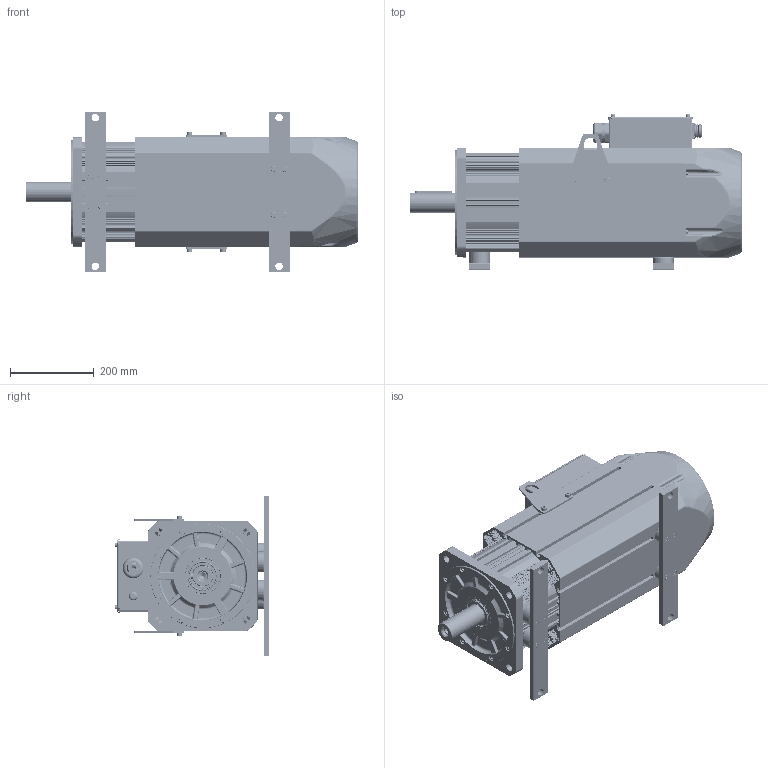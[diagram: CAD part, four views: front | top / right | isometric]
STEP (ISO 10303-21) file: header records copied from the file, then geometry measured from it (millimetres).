
FILE_DESCRIPTION((''),'2;1');
FILE_NAME('IMS20B-26M74D20C-4-R7F-A_ASM','2025-08-25T09:59:41',('0108698'),(''),'CREO PARAMETRIC BY PTC INC, 2019080','CREO PARAMETRIC BY PTC INC, 2019080','');
FILE_SCHEMA(('CONFIG_CONTROL_DESIGN'));
Products named in the file (72): 263T360_A; 631000; 80100320_AF0; 2630002_ASM; 2630003; 2630004; M6X160001; 50058-00152_AF0; 2630001_ASM; 263559_A; 2630005_ASM; 80100323_AF0; 263000_ASM; 50057-00008; 50036-00052; 50060-00059; 2630007_ASM; 2630009; 15000; 2630008_ASM; 50034-00098; _0001; 0001; 50051-00002; PDLD_4X12; 2630011; 00; M8X3000; 800; 0003; 0004; L990001; 2630010_ASM; 0005; ISO7045-M4X6-4_8; 0006; ISO7045-M4X8-4_8; WXJXDZ_40200-01002; 0007; _0002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
Assembly tree (142 placements, depth 4):
  IMS20B-26M74D20C-4-R7F-A_ASM
    2630001_ASM
      263T360_A
      631000
      2630002_ASM
        80100320_AF0
      2630003
      2630004
      M6X160001  x6
      50058-00152_AF0
    2630005_ASM
      263559_A
    263000_ASM
      80100323_AF0
    2630007_ASM
      50057-00008
      50036-00052
      50060-00059  x4
    2630008_ASM
      2630009
      15000
    50034-00098
    12116-00061_ASM
      _0001
      0001
      50051-00002
      PDLD_4X12  x4
      2630010_ASM
        2630011
        00  x3
        M8X3000  x6
        800  x6
        800  x6
        0003  x4
        0004
        L990001
      0005
      ISO7045-M4X6-4_8  x2
      0006
      ISO7045-M4X8-4_8
      WXJXDZ_40200-01002  x4
      0007
      _0002
      50060-00134  x4
      0008
      PG11
      PG36
    50034-00031  x2
    50034-00026  x2
    50058-00151_AF0
    50060-00071  x4
    50058-00152_AF1
    50060-00135  x4
    50058-00150
    50066-00059
    50060-00076  x4
    12118-00004_ASM
      80310919
      50034-00012
      80310916  x2
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Bounding box: 795 x 371 x 384 mm (x, y, z)
Volume: 16234872.9 mm3; surface area: 3928711.6 mm2
Topology: 148 solids, 260 shells, 7714 faces, 20132 edges, 13031 vertices
Faces by surface type: plane 3573, cylinder 2778, cone 505, bspline 481, torus 329, revolution 24, sphere 24
Entity records: 228504 total; most frequent: CARTESIAN_POINT 70601, DIRECTION 33163, ORIENTED_EDGE 32704, EDGE_CURVE 16484, AXIS2_PLACEMENT_3D 11953, VERTEX_POINT 10717, VECTOR 9233, LINE 9233
